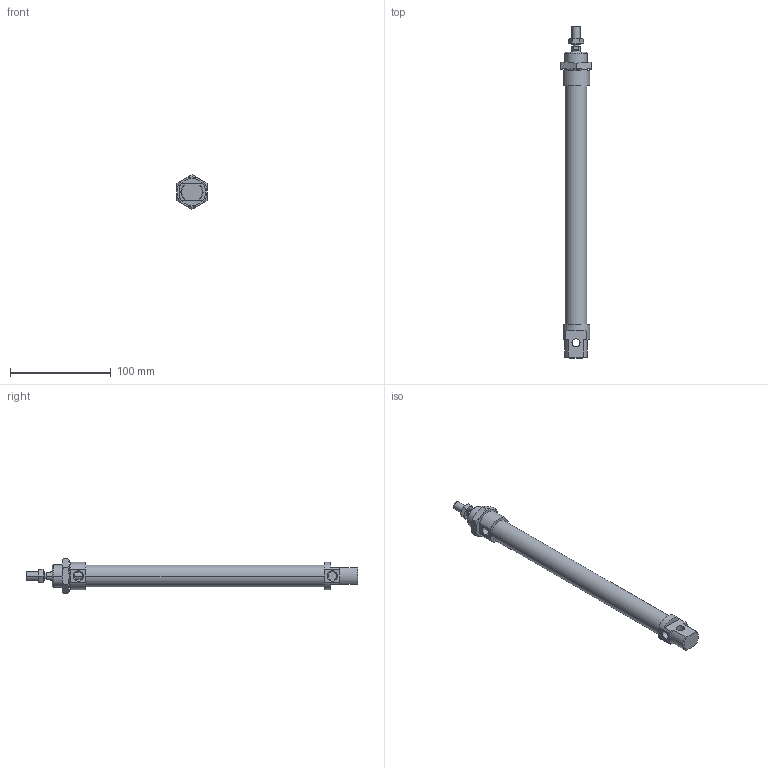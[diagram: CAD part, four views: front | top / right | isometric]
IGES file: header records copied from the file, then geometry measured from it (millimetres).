
Global section: file name: No Iges File Name specified; native system: Autodesk Inventor 2010; preprocessor: AutoDesk Inventor Iges Exporter R2010; author: rivolro1; date: 20090604.093309; units: millimetre
Bounding box: 30 x 330 x 34.64 mm (x, y, z)
Volume: 114954.6 mm3; surface area: 37904.9 mm2
Topology: 4 solids, 4 shells, 110 faces, 249 edges, 152 vertices
Faces by surface type: plane 41, cone 28, bspline 21, cylinder 14, revolution 6
